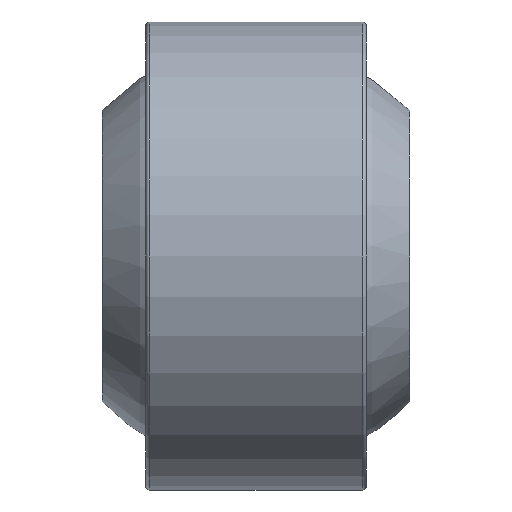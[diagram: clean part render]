
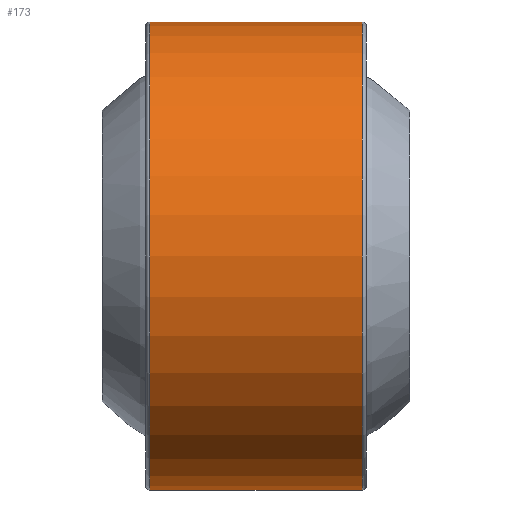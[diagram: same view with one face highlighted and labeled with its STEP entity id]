
A CAD part, front view. The second image highlights one B-rep face of the part: STEP entity #173.
In plain terms, the highlighted cylindrical face has radius 17.5 mm (diameter 35 mm), a full revolution.
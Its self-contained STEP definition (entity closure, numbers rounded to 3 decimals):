
#173 = ADVANCED_FACE( '', ( #193, #194 ), #195, .T. );
#193 = FACE_OUTER_BOUND( '', #224, .T. );
#194 = FACE_OUTER_BOUND( '', #225, .T. );
#195 = CYLINDRICAL_SURFACE( '', #226, 17.5 );
#224 = EDGE_LOOP( '', ( #262 ) );
#225 = EDGE_LOOP( '', ( #263 ) );
#226 = AXIS2_PLACEMENT_3D( '', #264, #265, #266 );
#262 = ORIENTED_EDGE( '', *, *, #297, .T. );
#263 = ORIENTED_EDGE( '', *, *, #296, .F. );
#264 = CARTESIAN_POINT( '', ( 8.25, 0., 0. ) );
#265 = DIRECTION( '', ( -1., 0., 0. ) );
#266 = DIRECTION( '', ( 0., 0., -1. ) );
#296 = EDGE_CURVE( '', #310, #310, #311, .T. );
#297 = EDGE_CURVE( '', #312, #312, #313, .T. );
#310 = VERTEX_POINT( '', #330 );
#311 = CIRCLE( '', #331, 17.5 );
#312 = VERTEX_POINT( '', #332 );
#313 = CIRCLE( '', #333, 17.5 );
#330 = CARTESIAN_POINT( '', ( 7.95, 0., -17.5 ) );
#331 = AXIS2_PLACEMENT_3D( '', #354, #355, #356 );
#332 = CARTESIAN_POINT( '', ( -7.95, 0., -17.5 ) );
#333 = AXIS2_PLACEMENT_3D( '', #357, #358, #359 );
#354 = CARTESIAN_POINT( '', ( 7.95, 0., 0. ) );
#355 = DIRECTION( '', ( 1., 0., 0. ) );
#356 = DIRECTION( '', ( 0., 0., -1. ) );
#357 = CARTESIAN_POINT( '', ( -7.95, 0., 0. ) );
#358 = DIRECTION( '', ( 1., 0., 0. ) );
#359 = DIRECTION( '', ( 0., 0., -1. ) );
